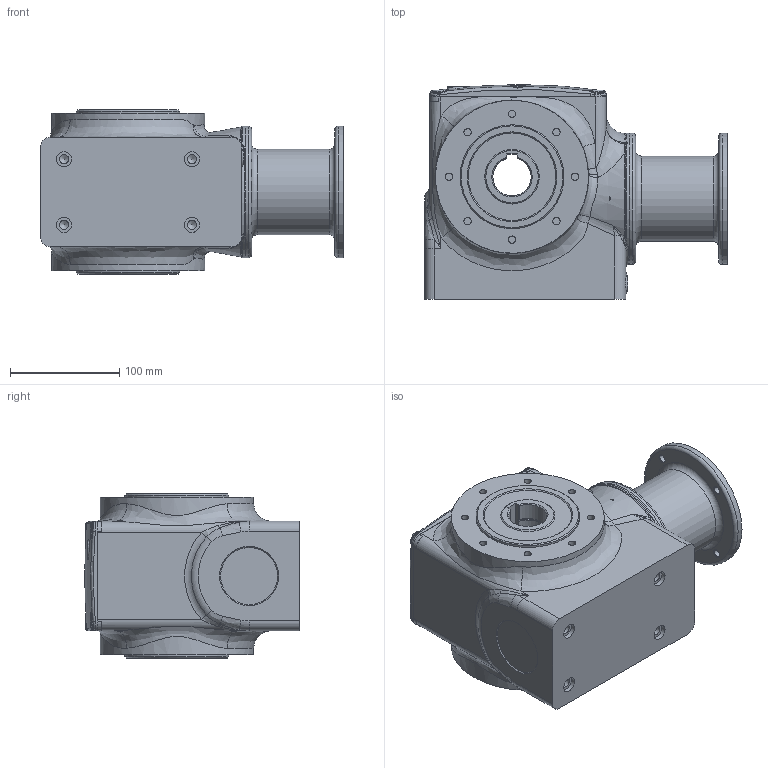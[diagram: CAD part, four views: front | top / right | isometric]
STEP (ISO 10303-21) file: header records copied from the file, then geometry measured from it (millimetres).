
FILE_DESCRIPTION(/* description */ (''),/* implementation_level */ '2;1');
FILE_NAME(/* name */ 'Z:\Dertec\RVS pakket tekeningen\Kasten\FSA + FS serie\FSA\FSA58\Step Customer\FSA58 HA35 AMFL 80B14A #.stp',/* time_stamp */ '2017-12-08T12:13:46+01:00',/* author */ ('Dertec'),/* organization */ (''),/* preprocessor_version */ 'ST-DEVELOPER v16.1',/* originating_system */ 'Autodesk Inventor 2016',/* authorisation */ '');
FILE_SCHEMA (('AUTOMOTIVE_DESIGN { 1 0 10303 214 3 1 1 }'));
Length unit declared in the file: inch
Products named in the file (1): Part63
Bounding box: 277 x 196.41 x 150.01 mm (x, y, z)
Volume: 3810616 mm3; surface area: 332710.7 mm2
Topology: 1 solids, 8 shells, 557 faces, 1269 edges, 774 vertices
Faces by surface type: bspline 168, plane 147, cylinder 138, torus 55, cone 47, sphere 2
Full cylindrical faces by diameter (mm): 4.917 x4, 6.644 x1, 6.647 x22, 7 x8, 8.376 x4, 8.917 x1, 11 x4, 14 x4, 46 x1, 47 x1, 49.9 x2, 50 x2, 50.2 x1, 52 x1, 55 x1, 62 x1, 68 x2, 68.6 x1, 69 x1, 71 x1, 72 x1, 78 x1, 80 x6, 83.5 x2, 84 x2, 87 x2, 95 x2, 120 x2, 140 x2
Entity records: 30912 total; most frequent: CARTESIAN_POINT 19579, ORIENTED_EDGE 2112, DIRECTION 1999, EDGE_CURVE 1056, AXIS2_PLACEMENT_3D 902, EDGE_LOOP 779, VERTEX_POINT 719, STYLED_ITEM 558
